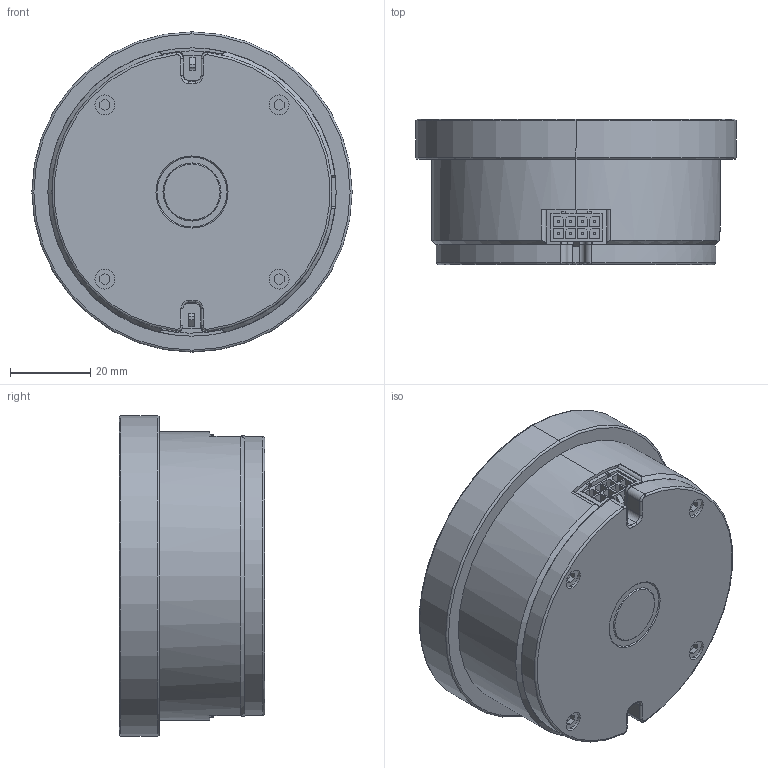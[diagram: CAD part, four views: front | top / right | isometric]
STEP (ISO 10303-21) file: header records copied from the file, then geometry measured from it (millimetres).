
FILE_DESCRIPTION (( 'STEP AP214' ), '1' );
FILE_NAME ('DD_60103D.STEP', '2019-04-26T07:08:49', ( 'Microsoft' ), ( 'Microsoft' ), 'SwSTEP 2.0', 'SolidWorks 2018', '' );
FILE_SCHEMA (( 'AUTOMOTIVE_DESIGN' ));
Length unit declared in the file: millimetre
Products named in the file (1): DD_60103D
Bounding box: 80 x 36.3 x 80 mm (x, y, z)
Volume: 128665 mm3; surface area: 56793.2 mm2
Topology: 13 solids, 13 shells, 1347 faces, 3529 edges, 2250 vertices
Faces by surface type: plane 952, cylinder 256, cone 85, torus 31, bspline 23
Entity records: 57761 total; most frequent: CARTESIAN_POINT 9962, ORIENTED_EDGE 6988, DIRECTION 6384, EDGE_CURVE 3494, LINE 2768, VECTOR 2768, VERTEX_POINT 2250, AXIS2_PLACEMENT_3D 1808
